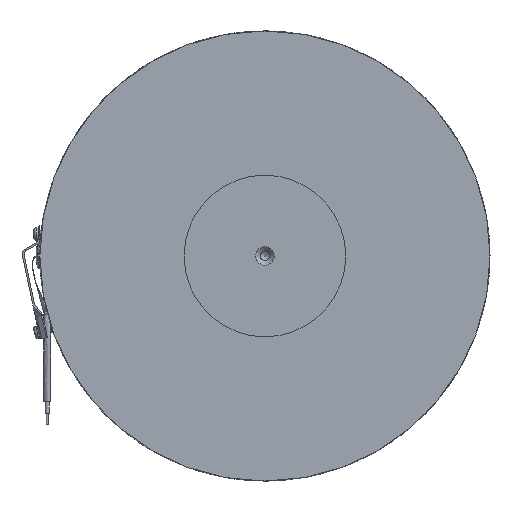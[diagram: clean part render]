
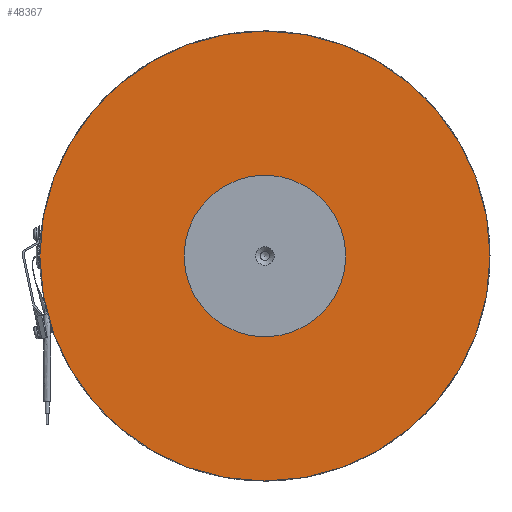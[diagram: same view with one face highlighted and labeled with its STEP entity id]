
A CAD part, left-side view. The second image highlights one B-rep face of the part: STEP entity #48367.
In plain terms, the highlighted planar face has unit normal (-1, 0, 0).
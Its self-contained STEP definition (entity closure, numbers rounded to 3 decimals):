
#423=FACE_BOUND('',#10415,.T.);
#2051=CIRCLE('',#52393,97.5);
#2052=CIRCLE('',#52395,35.);
#7800=FACE_OUTER_BOUND('',#10414,.T.);
#10414=EDGE_LOOP('',(#35312));
#10415=EDGE_LOOP('',(#35313));
#19544=VERTEX_POINT('',#78969);
#19545=VERTEX_POINT('',#78972);
#25317=EDGE_CURVE('',#19544,#19544,#2051,.T.);
#25318=EDGE_CURVE('',#19545,#19545,#2052,.T.);
#35312=ORIENTED_EDGE('',*,*,#25317,.F.);
#35313=ORIENTED_EDGE('',*,*,#25318,.T.);
#45285=PLANE('',#52396);
#48367=ADVANCED_FACE('',(#7800,#423),#45285,.T.);
#52393=AXIS2_PLACEMENT_3D('',#78970,#62783,#62784);
#52395=AXIS2_PLACEMENT_3D('',#78973,#62787,#62788);
#52396=AXIS2_PLACEMENT_3D('',#78974,#62789,#62790);
#62783=DIRECTION('center_axis',(1.,0.,0.));
#62784=DIRECTION('ref_axis',(0.,1.,0.));
#62787=DIRECTION('center_axis',(1.,0.,0.));
#62788=DIRECTION('ref_axis',(0.,1.,0.));
#62789=DIRECTION('center_axis',(-1.,0.,0.));
#62790=DIRECTION('ref_axis',(0.,0.,1.));
#78969=CARTESIAN_POINT('',(-52.75,97.5,0.));
#78970=CARTESIAN_POINT('Origin',(-52.75,0.,0.));
#78972=CARTESIAN_POINT('',(-52.75,35.,0.));
#78973=CARTESIAN_POINT('Origin',(-52.75,0.,0.));
#78974=CARTESIAN_POINT('Origin',(-52.75,66.25,0.));
